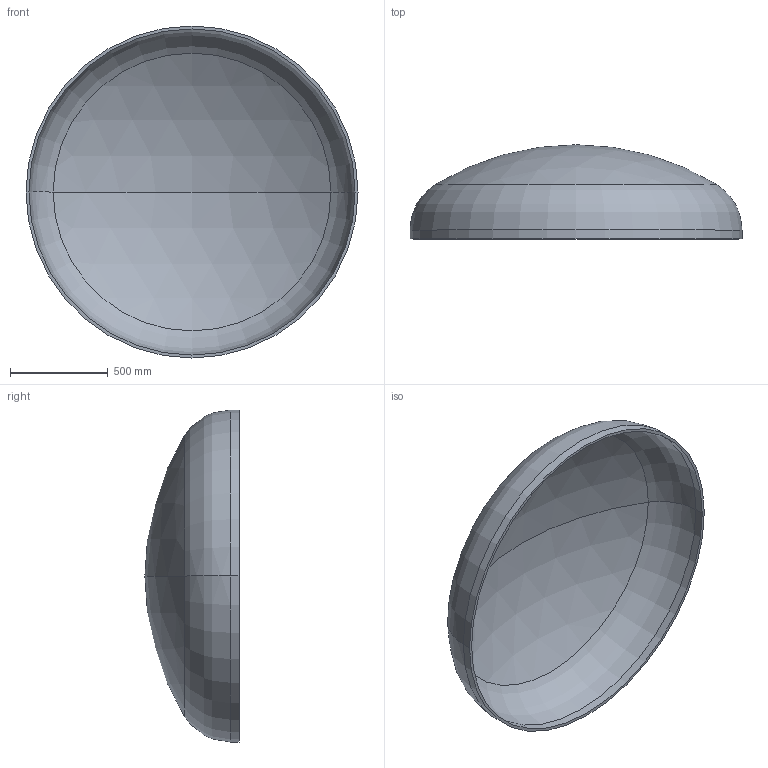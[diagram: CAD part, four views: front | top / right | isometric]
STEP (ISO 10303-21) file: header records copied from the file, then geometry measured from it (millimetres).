
FILE_DESCRIPTION (( 'STEP AP203' ), '1' );
FILE_NAME ('DIN 28013 Korbbogenform_-_Boden DIN 28013 - 1700 x 45 - I - s=15.step', '2016-07-01T11:38:34', ( '' ), ( '' ), 'SwSTEP 2.0', 'SolidWorks 2013', '' );
FILE_SCHEMA (( 'CONFIG_CONTROL_DESIGN' ));
Length unit declared in the file: millimetre
Products named in the file (1): DIN 28013 Korbbogenform_-_Boden DIN 28013 - 1700 x 45 - I - s=15
Bounding box: 1700 x 482.25 x 1700 mm (x, y, z)
Volume: 50118146.6 mm3; surface area: 6762292 mm2
Topology: 1 solids, 1 shells, 13 faces, 24 edges, 14 vertices
Faces by surface type: torus 4, cylinder 4, sphere 4, plane 1
Entity records: 407 total; most frequent: DIRECTION 72, CARTESIAN_POINT 52, ORIENTED_EDGE 48, AXIS2_PLACEMENT_3D 34, EDGE_CURVE 24, CIRCLE 20, EDGE_LOOP 14, VERTEX_POINT 14
